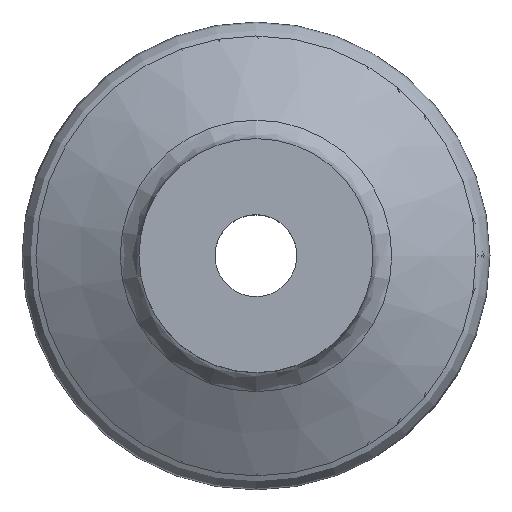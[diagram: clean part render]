
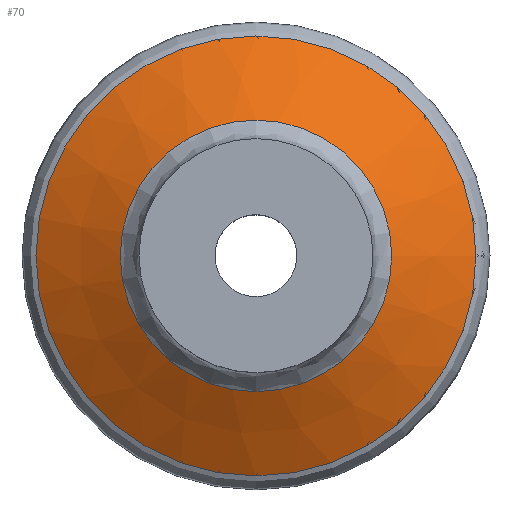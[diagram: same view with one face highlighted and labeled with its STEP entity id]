
A CAD part, top view. The second image highlights one B-rep face of the part: STEP entity #70.
In plain terms, the highlighted conical face has half-angle 60.04 degrees and reference radius 9.399 mm.
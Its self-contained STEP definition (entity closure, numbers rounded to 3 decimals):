
#70=ADVANCED_FACE('',(#151,#152),#153,.T.);
#151=FACE_OUTER_BOUND('',#235,.T.);
#152=FACE_BOUND('',#236,.T.);
#153=CONICAL_SURFACE('',#237,9.399,1.048);
#235=EDGE_LOOP('',(#401));
#236=EDGE_LOOP('',(#402));
#237=AXIS2_PLACEMENT_3D('',#403,#404,#405);
#401=ORIENTED_EDGE('',*,*,#425,.T.);
#402=ORIENTED_EDGE('',*,*,#428,.T.);
#403=CARTESIAN_POINT('',(0.0,0.,7.04));
#404=DIRECTION('',(0.0,0.,-1.0));
#405=DIRECTION('',(0.0,1.0,0.));
#425=EDGE_CURVE('',#461,#461,#462,.F.);
#428=EDGE_CURVE('',#466,#466,#467,.T.);
#461=VERTEX_POINT('',#515);
#462=CIRCLE('',#516,9.399);
#466=VERTEX_POINT('',#520);
#467=CIRCLE('',#521,5.801);
#515=CARTESIAN_POINT('',(9.399,0.,7.04));
#516=AXIS2_PLACEMENT_3D('',#568,#569,#570);
#520=CARTESIAN_POINT('',(5.801,0.,9.114));
#521=AXIS2_PLACEMENT_3D('',#574,#575,#576);
#568=CARTESIAN_POINT('',(0.0,0.,7.04));
#569=DIRECTION('',(0.0,0.,-1.0));
#570=DIRECTION('',(1.0,0.,0.));
#574=CARTESIAN_POINT('',(0.0,0.,9.114));
#575=DIRECTION('',(0.0,0.,-1.0));
#576=DIRECTION('',(1.0,0.0,0.0));
